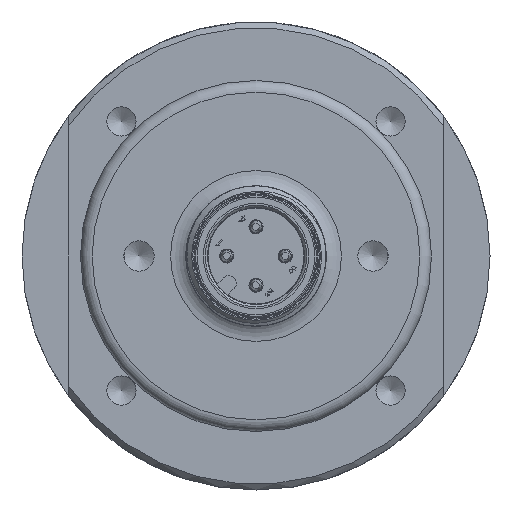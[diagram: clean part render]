
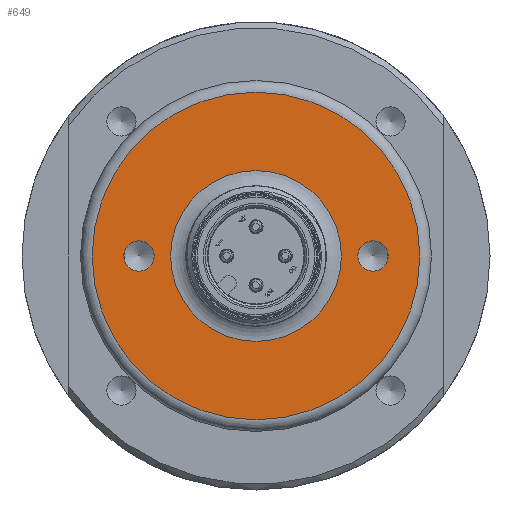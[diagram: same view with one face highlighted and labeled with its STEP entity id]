
A CAD part, front view. The second image highlights one B-rep face of the part: STEP entity #649.
In plain terms, the highlighted planar face has unit normal (0, -1, 0) as drawn and (0, 1, 0) by its records, which use the part's own axes.
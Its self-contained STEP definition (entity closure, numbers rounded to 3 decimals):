
#649 = ADVANCED_FACE( '', ( #1316, #1317, #1318, #1319 ), #1320, .T. );
#1316 = FACE_BOUND( '', #3608, .T. );
#1317 = FACE_OUTER_BOUND( '', #3609, .T. );
#1318 = FACE_BOUND( '', #3610, .T. );
#1319 = FACE_BOUND( '', #3611, .T. );
#1320 = PLANE( '', #3612 );
#3608 = EDGE_LOOP( '', ( #7258 ) );
#3609 = EDGE_LOOP( '', ( #7259 ) );
#3610 = EDGE_LOOP( '', ( #7260 ) );
#3611 = EDGE_LOOP( '', ( #7261 ) );
#3612 = AXIS2_PLACEMENT_3D( '', #7262, #7263, #7264 );
#7258 = ORIENTED_EDGE( '', *, *, #8614, .T. );
#7259 = ORIENTED_EDGE( '', *, *, #8475, .T. );
#7260 = ORIENTED_EDGE( '', *, *, #8485, .T. );
#7261 = ORIENTED_EDGE( '', *, *, #8792, .T. );
#7262 = CARTESIAN_POINT( '', ( -15., -2.104, 0. ) );
#7263 = DIRECTION( '', ( 0., 1., 0. ) );
#7264 = DIRECTION( '', ( -1., 0., 0. ) );
#8475 = EDGE_CURVE( '', #9145, #9145, #9146, .T. );
#8485 = EDGE_CURVE( '', #9162, #9162, #9163, .T. );
#8614 = EDGE_CURVE( '', #9374, #9374, #9375, .F. );
#8792 = EDGE_CURVE( '', #9650, #9650, #9651, .T. );
#9145 = VERTEX_POINT( '', #10677 );
#9146 = CIRCLE( '', #10678, 14. );
#9162 = VERTEX_POINT( '', #10694 );
#9163 = CIRCLE( '', #10695, 1.3 );
#9374 = VERTEX_POINT( '', #11421 );
#9375 = CIRCLE( '', #11422, 7.3 );
#9650 = VERTEX_POINT( '', #12808 );
#9651 = CIRCLE( '', #12809, 1.3 );
#10677 = CARTESIAN_POINT( '', ( -14., -2.104, 0. ) );
#10678 = AXIS2_PLACEMENT_3D( '', #14057, #14058, #14059 );
#10694 = CARTESIAN_POINT( '', ( -1.3, -2.104, -10. ) );
#10695 = AXIS2_PLACEMENT_3D( '', #14078, #14079, #14080 );
#11421 = CARTESIAN_POINT( '', ( -7.3, -2.104, 0. ) );
#11422 = AXIS2_PLACEMENT_3D( '', #14218, #14219, #14220 );
#12808 = CARTESIAN_POINT( '', ( -1.3, -2.104, 10. ) );
#12809 = AXIS2_PLACEMENT_3D( '', #14388, #14389, #14390 );
#14057 = CARTESIAN_POINT( '', ( 0., -2.104, 0. ) );
#14058 = DIRECTION( '', ( 0., 1., 0. ) );
#14059 = DIRECTION( '', ( -1., 0., 0. ) );
#14078 = CARTESIAN_POINT( '', ( 0., -2.104, -10. ) );
#14079 = DIRECTION( '', ( 0., -1., 0. ) );
#14080 = DIRECTION( '', ( -1., 0., 0. ) );
#14218 = CARTESIAN_POINT( '', ( 0., -2.104, 0. ) );
#14219 = DIRECTION( '', ( 0., 1., 0. ) );
#14220 = DIRECTION( '', ( -1., 0., 0. ) );
#14388 = CARTESIAN_POINT( '', ( 0., -2.104, 10. ) );
#14389 = DIRECTION( '', ( 0., -1., 0. ) );
#14390 = DIRECTION( '', ( -1., 0., 0. ) );
